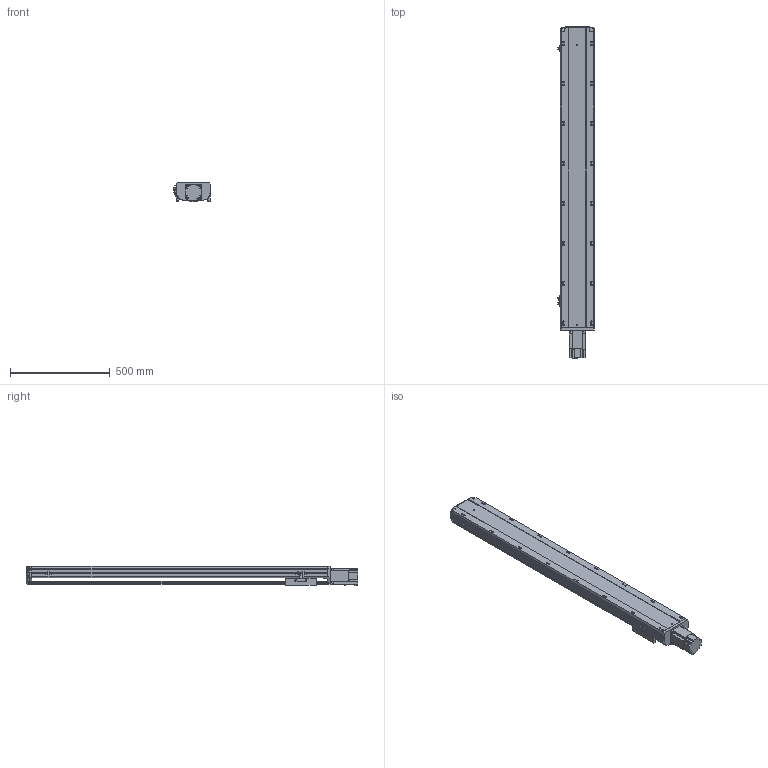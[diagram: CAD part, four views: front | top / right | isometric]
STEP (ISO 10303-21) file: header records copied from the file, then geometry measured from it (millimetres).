
FILE_DESCRIPTION (( 'STEP AP203' ), '1' );
FILE_NAME ('25.STEP', '2020-11-21T01:16:24', ( '' ), ( '' ), 'SwSTEP 2.0', 'SolidWorks 2016', '' );
FILE_SCHEMA (( 'CONFIG_CONTROL_DESIGN' ));
Length unit declared in the file: millimetre
Products named in the file (7): BTH17-BC-01-T75; BTH17-BC-04-T75; BTH17-BC-T75; BTH17-BC-HZ-T75_賑釱; 25; BTH17-BC-02-T75; BTH17-BC-750W-菁釱
Assembly tree (8 placements, depth 2):
  25
    BTH17-BC-750W-菁釱
    BTH17-BC-01-T75
    BTH17-BC-02-T75
    BTH17-BC-04-T75  x3
    BTH17-BC-HZ-T75_賑釱
    BTH17-BC-T75
Bounding box: 183.7 x 1661.83 x 99.3 mm (x, y, z)
Volume: 10836584.1 mm3; surface area: 1723616.6 mm2
Topology: 12 solids, 12 shells, 1552 faces, 4226 edges, 2711 vertices
Faces by surface type: plane 797, cylinder 450, bspline 183, cone 99, torus 23
Entity records: 53556 total; most frequent: CARTESIAN_POINT 20287, ORIENTED_EDGE 7250, DIRECTION 6087, EDGE_CURVE 3625, VERTEX_POINT 2351, AXIS2_PLACEMENT_3D 2051, LINE 1985, VECTOR 1985
